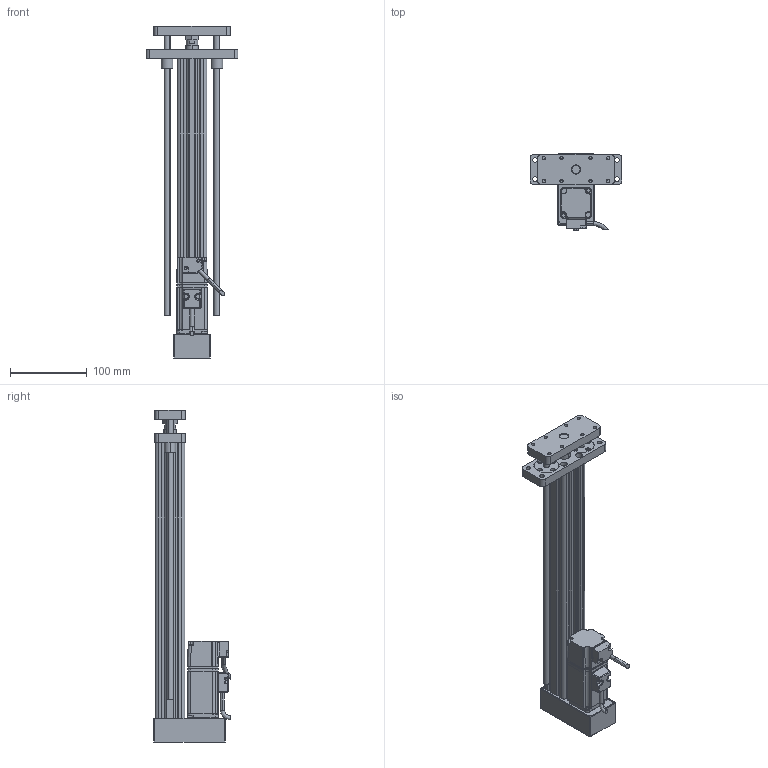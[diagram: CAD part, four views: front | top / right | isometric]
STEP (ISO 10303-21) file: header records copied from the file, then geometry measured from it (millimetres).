
FILE_DESCRIPTION (( 'STEP AP214' ), '1' );
FILE_NAME ('039-S300-D02-B-M3-C5-2.STEP', '2021-02-26T00:53:12', ( '' ), ( '' ), 'SwSTEP 2.0', 'SolidWorks 2018', '' );
FILE_SCHEMA (( 'AUTOMOTIVE_DESIGN' ));
Length unit declared in the file: millimetre
Products named in the file (11): CMC039-XT; 039-S300-D02-B-M3-C5-2; ECMA-CX0401ES-40框號系列機種-100W低慣量系列; GB／T6172．1-2000六角薄螺母A级和B级M12; LME01-d8; CMC039-DT; CMC039-LJB; CMC039-FL; CMC039-DB; CMC039-DZ; CMC039-GT
Assembly tree (12 placements, depth 2):
  039-S300-D02-B-M3-C5-2
    CMC039-GT
    CMC039-LJB
    CMC039-XT
    CMC039-FL
    CMC039-DT
    ECMA-CX0401ES-40框號系列機種-100W低慣量系列
    LME01-d8  x2
    CMC039-DB
    GB／T6172．1-2000六角薄螺母A级和B级M12
    CMC039-DZ  x2
Bounding box: 120 x 99.39 x 434 mm (x, y, z)
Volume: 662535.8 mm3; surface area: 242387.6 mm2
Topology: 12 solids, 20 shells, 766 faces, 1956 edges, 1223 vertices
Faces by surface type: cylinder 336, plane 275, bspline 88, cone 67
Entity records: 28536 total; most frequent: CARTESIAN_POINT 11352, ORIENTED_EDGE 3654, DIRECTION 3059, EDGE_CURVE 1827, VERTEX_POINT 1164, AXIS2_PLACEMENT_3D 1094, VECTOR 871, LINE 871
